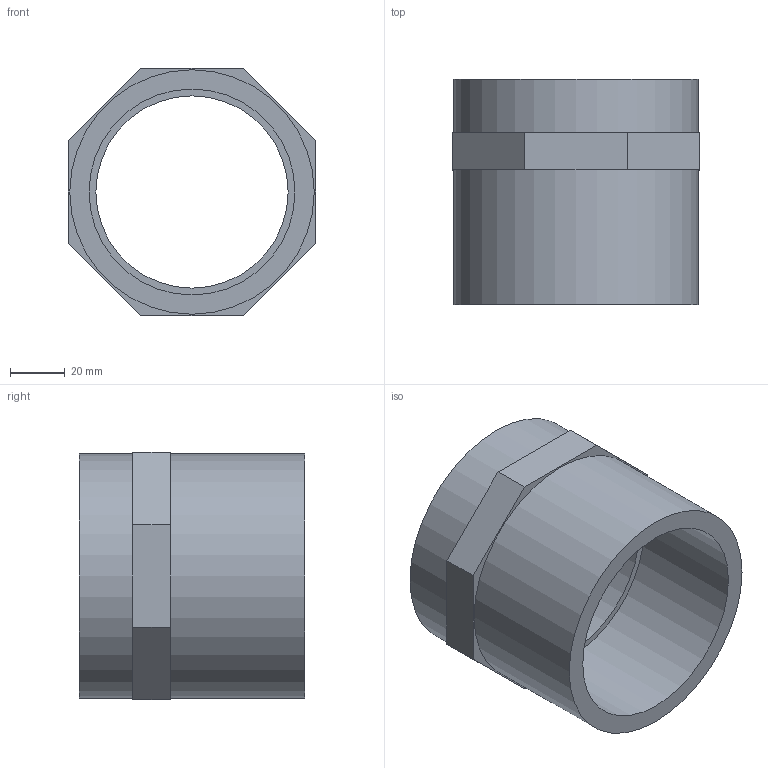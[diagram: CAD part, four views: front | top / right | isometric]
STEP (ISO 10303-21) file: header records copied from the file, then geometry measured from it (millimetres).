
FILE_DESCRIPTION(/* description */ ('PVC manicotto incollaggio metrico-filettato BSP femmina'),/* implementation_level */ '2;1');
FILE_NAME(/* name */ 'C:\Users\POLYPIPE\Desktop\DATASET INVENTOR\LIBRERIA EFFAST\RACCORDI 3DxWEB\RGR\3D_RGRMAG\3D_RGRMAG075H.stp',/* time_stamp */ '2018-01-19T17:49:04+01:00',/* author */ ('POLYPIPE'),/* organization */ ('Polypipe Italia s.r.l.'),/* preprocessor_version */ 'ST-DEVELOPER v16.1',/* originating_system */ 'Autodesk Inventor 2016',/* authorisation */ '');
FILE_SCHEMA (('CONFIG_CONTROL_DESIGN'));
Length unit declared in the file: millimetre
Products named in the file (1): 3D_RGRMAG
Bounding box: 90 x 82 x 90 mm (x, y, z)
Volume: 163899.4 mm3; surface area: 52581.8 mm2
Topology: 1 solids, 1 shells, 25 faces, 56 edges, 37 vertices
Faces by surface type: plane 15, bspline 5, cylinder 5
Full cylindrical faces by diameter (mm): 70 x1, 72.226 x1, 75 x1, 89 x2
Entity records: 5434 total; most frequent: CARTESIAN_POINT 4898, ORIENTED_EDGE 100, DIRECTION 93, EDGE_CURVE 50, EDGE_LOOP 35, VERTEX_POINT 35, AXIS2_PLACEMENT_3D 33, LINE 27
